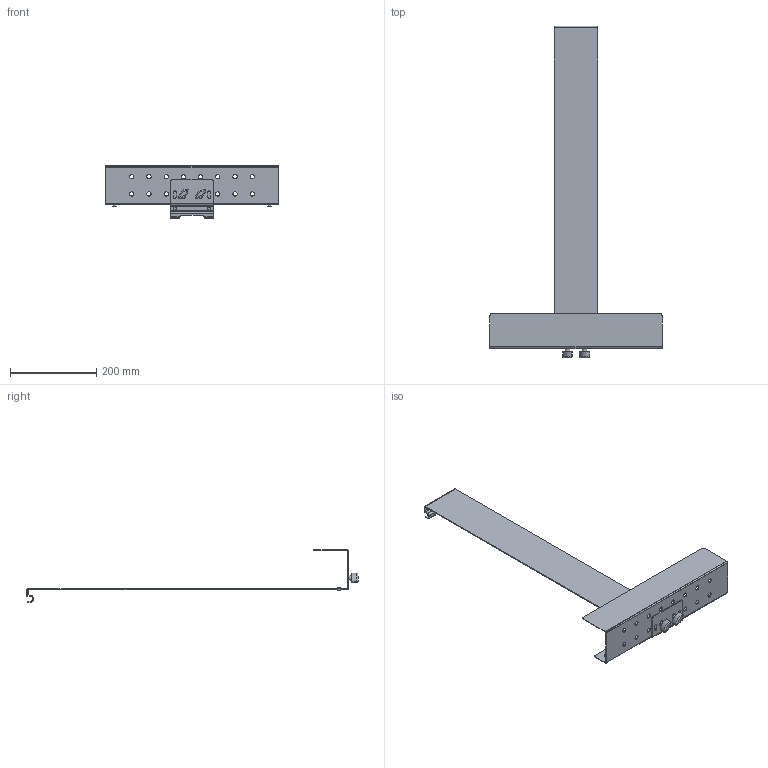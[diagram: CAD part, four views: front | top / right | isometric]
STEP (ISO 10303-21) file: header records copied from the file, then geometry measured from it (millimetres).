
FILE_DESCRIPTION(/* description */ (''),/* implementation_level */ '2;1');
FILE_NAME(/* name */ 'D:\DABSTORY\Folder dabstory pulpit - 16.03.2020\1. Oferta łazienkowa\Prototypy\Półka na kabinę prysznicową LOGAN\Półka na kabinę prysznicową LOGAN 40 cm\Półka na kabine prysznicową LOGAN 40 cm.stp',/* time_stamp */ '2021-05-19T14:52:13+02:00',/* author */ ('Verical'),/* organization */ (''),/* preprocessor_version */ 'ST-DEVELOPER v17',/* originating_system */ 'Autodesk Inventor 2018',/* authorisation */ '');
FILE_SCHEMA (('AUTOMOTIVE_DESIGN { 1 0 10303 214 3 1 1 }'));
Length unit declared in the file: millimetre
Products named in the file (1): Półka na kabine prysznicową L
OGAN 40 cm
Bounding box: 400 x 771.4 x 121 mm (x, y, z)
Volume: 300111.2 mm3; surface area: 323314.5 mm2
Topology: 1 solids, 3 shells, 208 faces, 516 edges, 310 vertices
Faces by surface type: plane 110, cylinder 74, torus 12, cone 8, bspline 4
Full cylindrical faces by diameter (mm): 4.917 x2, 6 x2, 7.1 x4, 8 x4, 10 x16, 11 x2
Entity records: 6586 total; most frequent: CARTESIAN_POINT 1397, DIRECTION 1118, ORIENTED_EDGE 1020, EDGE_CURVE 510, AXIS2_PLACEMENT_3D 421, VERTEX_POINT 310, LINE 276, VECTOR 276
